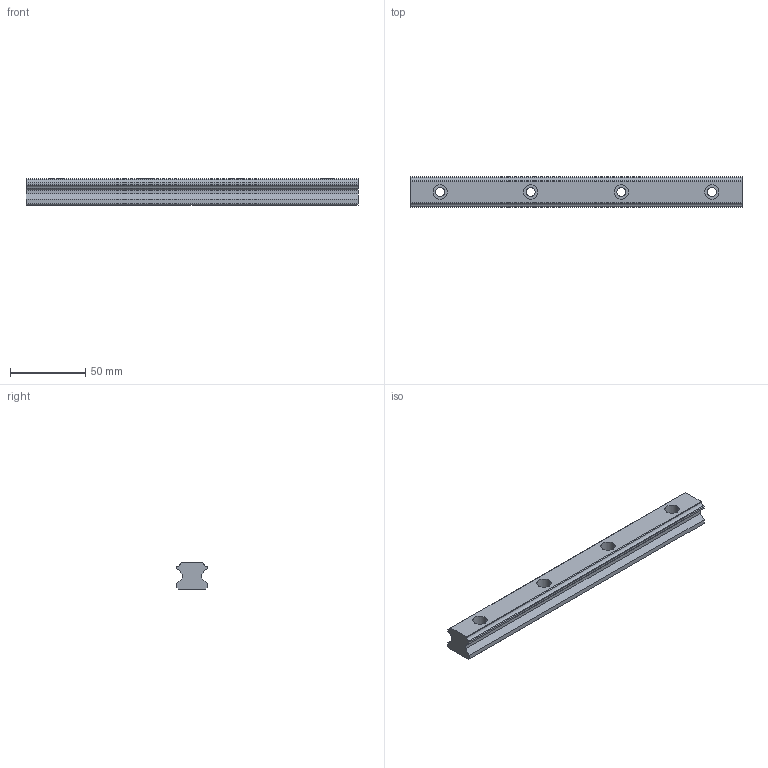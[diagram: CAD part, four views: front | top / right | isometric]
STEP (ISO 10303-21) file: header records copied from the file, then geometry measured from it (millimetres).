
FILE_DESCRIPTION(('starvars output'),'2;1');
FILE_NAME('cv20190626220047000039572.stp','22:00:47 2019/06/26',( 'Thomas Industrial Network Germany GmbH'),( 'Thomas Industrial Network Germany GmbH'),'unknown preprocess','ACIS' ,'unknown authorization');
FILE_SCHEMA(('CONFIG_CONTROL_DESIGN {UNKNOWN IMPLEMENTATION LEVEL}'));
Length unit declared in the file: millimetre
Products named in the file (1): PRODUCT_ID_1
Bounding box: 220 x 20 x 17.5 mm (x, y, z)
Volume: 61814.3 mm3; surface area: 19058 mm2
Topology: 1 solids, 1 shells, 46 faces, 120 edges, 80 vertices
Faces by surface type: plane 26, cylinder 20
Entity records: 1405 total; most frequent: ORIENTED_EDGE 240, CARTESIAN_POINT 222, DIRECTION 204, EDGE_CURVE 120, VERTEX_POINT 80, VECTOR 80, LINE 80, AXIS2_PLACEMENT_3D 62
